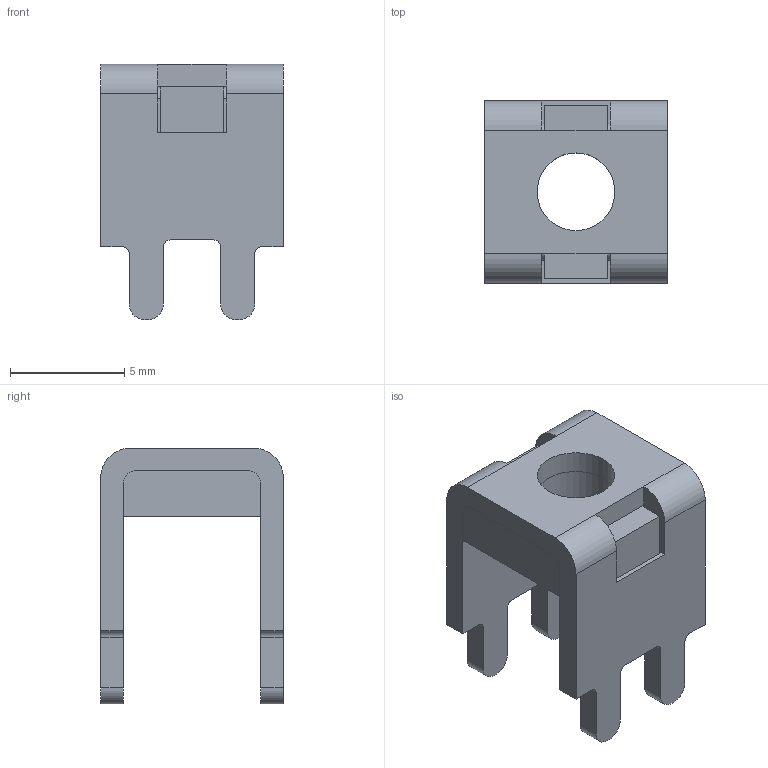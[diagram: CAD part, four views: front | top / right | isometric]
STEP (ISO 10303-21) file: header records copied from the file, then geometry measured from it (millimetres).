
FILE_DESCRIPTION(/* description */ (''),/* implementation_level */ '2;1');
FILE_NAME(/* name */ '8.0x8.0料厚1.0 带铁板高8.0，中心距4.0脚长3.2mm_stp.stp',/* time_stamp */ '2025-06-26T19:50:07+08:00',/* author */ (''),/* organization */ (''),/* preprocessor_version */ 'ST-DEVELOPER v16',/* originating_system */ 'SIEMENS PLM Software NX 10.0',/* authorisation */ '');
FILE_SCHEMA (('AP203_CONFIGURATION_CONTROLLED_3D_DESIGN_OF_MECHANICAL_PARTS_AND_ASSEMBLIES_MIM_LF { 1 0 10303 403 2 1 2}'));
Length unit declared in the file: millimetre
Products named in the file (1): Admi2ABC7C88fx63
Bounding box: 8 x 8 x 11.2 mm (x, y, z)
Volume: 247.3 mm3; surface area: 605.7 mm2
Topology: 2 solids, 2 shells, 78 faces, 231 edges, 153 vertices
Faces by surface type: plane 48, cylinder 30
Full cylindrical faces by diameter (mm): 3.4 x2
Entity records: 2698 total; most frequent: CARTESIAN_POINT 459, ORIENTED_EDGE 456, DIRECTION 446, EDGE_CURVE 228, LINE 168, VECTOR 168, VERTEX_POINT 152, AXIS2_PLACEMENT_3D 139
